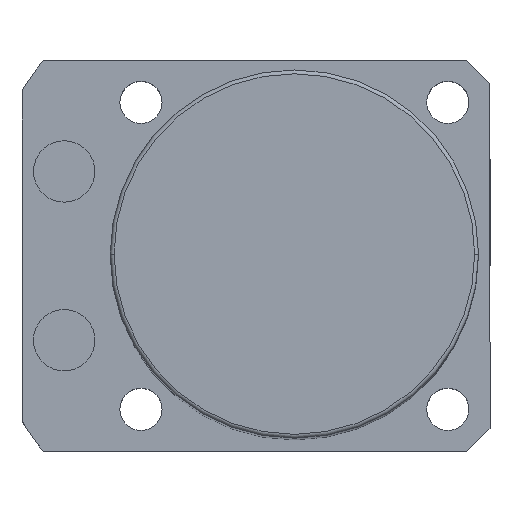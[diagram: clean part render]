
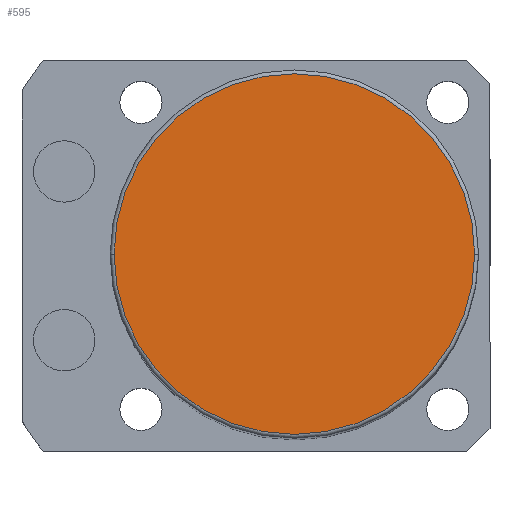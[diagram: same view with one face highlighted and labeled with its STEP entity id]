
A CAD part, top view. The second image highlights one B-rep face of the part: STEP entity #595.
In plain terms, the highlighted planar face has unit normal (0, 0, 1).
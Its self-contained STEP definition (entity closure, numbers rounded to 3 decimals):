
#213 = EDGE_CURVE ( 'NONE', #1987, #2359, #939, .T. ) ;
#244 = AXIS2_PLACEMENT_3D ( 'NONE', #2028, #2449, #1576 ) ;
#424 = CIRCLE ( 'NONE', #244, 23.5 ) ;
#523 = CARTESIAN_POINT ( 'NONE',  ( 0., 0., 146. ) ) ;
#567 = EDGE_LOOP ( 'NONE', ( #1451, #1224 ) ) ;
#595 = ADVANCED_FACE ( 'NONE', ( #976 ), #726, .T. ) ;
#642 = AXIS2_PLACEMENT_3D ( 'NONE', #807, #1852, #1041 ) ;
#726 = PLANE ( 'NONE',  #2731 ) ;
#807 = CARTESIAN_POINT ( 'NONE',  ( 0., 0., 146. ) ) ;
#925 = DIRECTION ( 'NONE',  ( 1., 0., 0. ) ) ;
#939 = CIRCLE ( 'NONE', #642, 23.5 ) ;
#976 = FACE_OUTER_BOUND ( 'NONE', #567, .T. ) ;
#1041 = DIRECTION ( 'NONE',  ( 1., 0., 0. ) ) ;
#1224 = ORIENTED_EDGE ( 'NONE', *, *, #1464, .T. ) ;
#1451 = ORIENTED_EDGE ( 'NONE', *, *, #213, .T. ) ;
#1464 = EDGE_CURVE ( 'NONE', #2359, #1987, #424, .T. ) ;
#1554 = DIRECTION ( 'NONE',  ( 0., 0., 1. ) ) ;
#1576 = DIRECTION ( 'NONE',  ( 1., 0., 0. ) ) ;
#1852 = DIRECTION ( 'NONE',  ( 0., 0., 1. ) ) ;
#1987 = VERTEX_POINT ( 'NONE', #2351 ) ;
#2028 = CARTESIAN_POINT ( 'NONE',  ( 0., 0., 146. ) ) ;
#2109 = CARTESIAN_POINT ( 'NONE',  ( -23.5, 0., 146. ) ) ;
#2351 = CARTESIAN_POINT ( 'NONE',  ( 23.5, 0., 146. ) ) ;
#2359 = VERTEX_POINT ( 'NONE', #2109 ) ;
#2449 = DIRECTION ( 'NONE',  ( 0., 0., 1. ) ) ;
#2731 = AXIS2_PLACEMENT_3D ( 'NONE', #523, #1554, #925 ) ;
